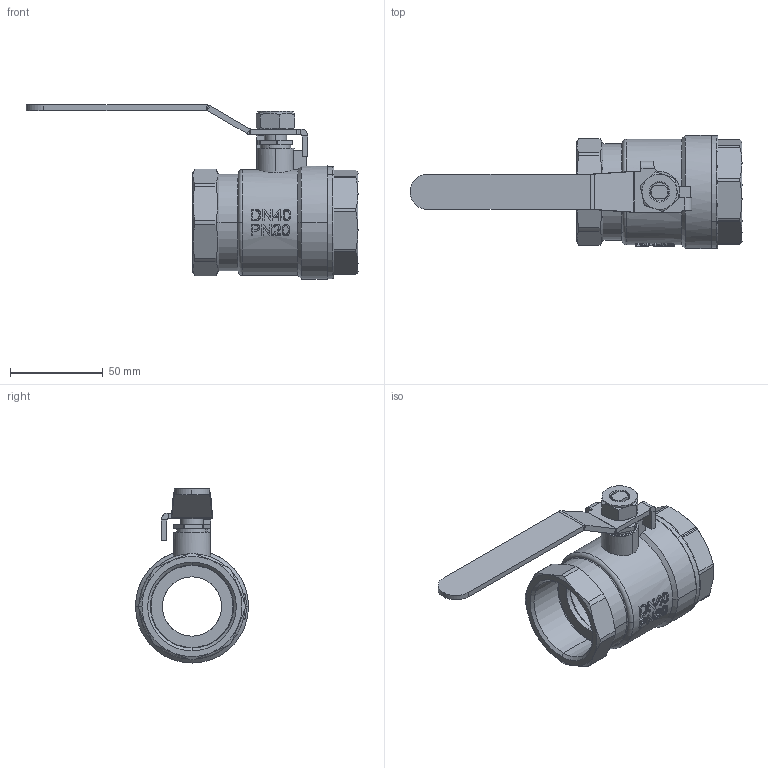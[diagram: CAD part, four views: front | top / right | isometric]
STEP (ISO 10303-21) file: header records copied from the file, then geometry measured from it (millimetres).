
FILE_DESCRIPTION(/* description */ (''),/* implementation_level */ '2;1');
FILE_NAME(/* name */ '4073.stp',/* time_stamp */ '2022-05-12T16:26:51+08:00',/* author */ (''),/* organization */ (''),/* preprocessor_version */ 'ST-DEVELOPER v11',/* originating_system */ 'SIEMENS PLM Software NX 7.5',/* authorisation */ '');
FILE_SCHEMA (('CONFIG_CONTROL_DESIGN'));
Length unit declared in the file: millimetre
Products named in the file (1): 4073
Bounding box: 179.07 x 61 x 93.91 mm (x, y, z)
Volume: 88326.5 mm3; surface area: 53688.1 mm2
Topology: 6 solids, 6 shells, 399 faces, 979 edges, 614 vertices
Faces by surface type: plane 159, cylinder 102, cone 65, bspline 55, torus 16, sphere 2
Full cylindrical faces by diameter (mm): 57 x1
Entity records: 34585 total; most frequent: CARTESIAN_POINT 25419, ORIENTED_EDGE 1968, DIRECTION 1760, EDGE_CURVE 984, AXIS2_PLACEMENT_3D 682, VERTEX_POINT 622, EDGE_LOOP 436, ADVANCED_FACE 399
